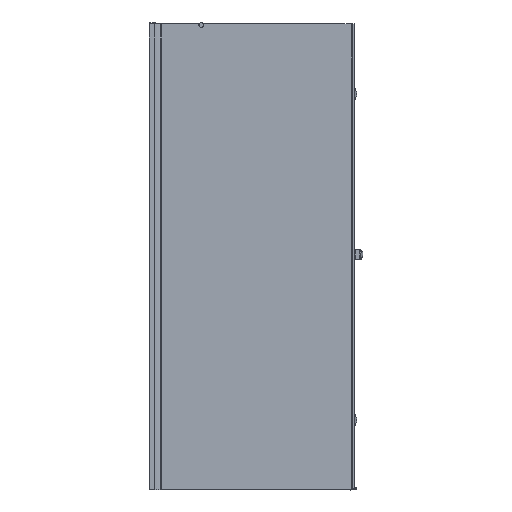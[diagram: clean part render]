
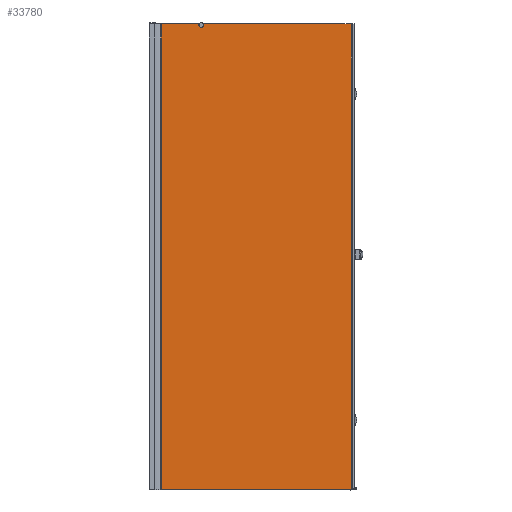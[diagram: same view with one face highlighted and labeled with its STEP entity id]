
A CAD part, front view. The second image highlights one B-rep face of the part: STEP entity #33780.
In plain terms, the highlighted planar face has unit normal (0, -1, 0).
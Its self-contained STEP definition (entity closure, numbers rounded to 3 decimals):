
#2438=FACE_OUTER_BOUND($,#4368,.T.);
#4368=EDGE_LOOP($,(#26257,#26258,#26259,#26260,#26261,#26262,#26263,#26264));
#5962=CIRCLE($,#36381,10.);
#5968=CIRCLE($,#36398,2.);
#8282=LINE($,#68934,#11398);
#8283=LINE($,#68936,#11399);
#8284=LINE($,#68938,#11400);
#8285=LINE($,#68942,#11401);
#8286=LINE($,#68944,#11402);
#8287=LINE($,#68945,#11403);
#11398=VECTOR($,#43183,164.716);
#11399=VECTOR($,#43184,2000.);
#11400=VECTOR($,#43185,815.919);
#11401=VECTOR($,#43188,1.419);
#11402=VECTOR($,#43189,1998.);
#11403=VECTOR($,#43190,633.923);
#14659=VERTEX_POINT($,#68898);
#14661=VERTEX_POINT($,#68901);
#14667=VERTEX_POINT($,#68933);
#14668=VERTEX_POINT($,#68935);
#14669=VERTEX_POINT($,#68937);
#14670=VERTEX_POINT($,#68939);
#14671=VERTEX_POINT($,#68941);
#14672=VERTEX_POINT($,#68943);
#18716=EDGE_CURVE($,#14661,#14659,#5962,.T.);
#18731=EDGE_CURVE($,#14659,#14667,#8282,.T.);
#18732=EDGE_CURVE($,#14667,#14668,#8283,.T.);
#18733=EDGE_CURVE($,#14669,#14668,#8284,.T.);
#18734=EDGE_CURVE($,#14669,#14670,#5968,.T.);
#18735=EDGE_CURVE($,#14670,#14671,#8285,.T.);
#18736=EDGE_CURVE($,#14671,#14672,#8286,.T.);
#18737=EDGE_CURVE($,#14672,#14661,#8287,.T.);
#26257=ORIENTED_EDGE($,*,*,#18716,.T.);
#26258=ORIENTED_EDGE($,*,*,#18731,.T.);
#26259=ORIENTED_EDGE($,*,*,#18732,.T.);
#26260=ORIENTED_EDGE($,*,*,#18733,.F.);
#26261=ORIENTED_EDGE($,*,*,#18734,.T.);
#26262=ORIENTED_EDGE($,*,*,#18735,.T.);
#26263=ORIENTED_EDGE($,*,*,#18736,.T.);
#26264=ORIENTED_EDGE($,*,*,#18737,.T.);
#30567=PLANE($,#36397);
#33780=ADVANCED_FACE($,(#2438),#30567,.T.);
#36381=AXIS2_PLACEMENT_3D($,#68902,#43140,#43141);
#36397=AXIS2_PLACEMENT_3D($,#68932,#43181,#43182);
#36398=AXIS2_PLACEMENT_3D($,#68940,#43186,#43187);
#43140=DIRECTION('center_axis',(0.,1.,0.));
#43141=DIRECTION('ref_axis',(-1.,0.,0.));
#43181=DIRECTION('center_axis',(0.,-1.,0.));
#43182=DIRECTION('ref_axis',(-1.,0.,0.));
#43183=DIRECTION($,(-1.,0.,0.));
#43184=DIRECTION($,(0.,0.,-1.));
#43185=DIRECTION($,(-1.,0.,0.));
#43186=DIRECTION('center_axis',(0.,1.,0.));
#43187=DIRECTION('ref_axis',(-0.707,0.,
0.707));
#43188=DIRECTION($,(-1.,0.,0.));
#43189=DIRECTION($,(0.,0.,1.));
#43190=DIRECTION($,(-1.,0.,0.));
#68898=CARTESIAN_POINT('',(580.735,-34.044,1485.944));
#68901=CARTESIAN_POINT('',(598.596,-34.044,1485.944));
#68902=CARTESIAN_POINT('Origin',(589.666,-34.044,1481.444));
#68932=CARTESIAN_POINT('Origin',(1237.519,-34.044,1485.944));
#68933=CARTESIAN_POINT('',(416.019,-34.044,1485.944));
#68934=CARTESIAN_POINT($,(1237.519,-34.044,1485.944));
#68935=CARTESIAN_POINT('',(416.019,-34.044,-514.056));
#68936=CARTESIAN_POINT($,(416.019,-34.044,485.944));
#68937=CARTESIAN_POINT('',(1231.938,-34.044,-514.056));
#68938=CARTESIAN_POINT($,(1237.519,-34.044,-514.056));
#68939=CARTESIAN_POINT('',(1233.938,-34.044,-512.056));
#68940=CARTESIAN_POINT('Origin',(1233.938,-34.044,-514.056));
#68941=CARTESIAN_POINT('',(1232.519,-34.044,-512.056));
#68942=CARTESIAN_POINT($,(1237.005,-34.044,-512.056));
#68943=CARTESIAN_POINT('',(1232.519,-34.044,1485.944));
#68944=CARTESIAN_POINT($,(1232.519,-34.044,486.944));
#68945=CARTESIAN_POINT($,(1237.519,-34.044,1485.944));
